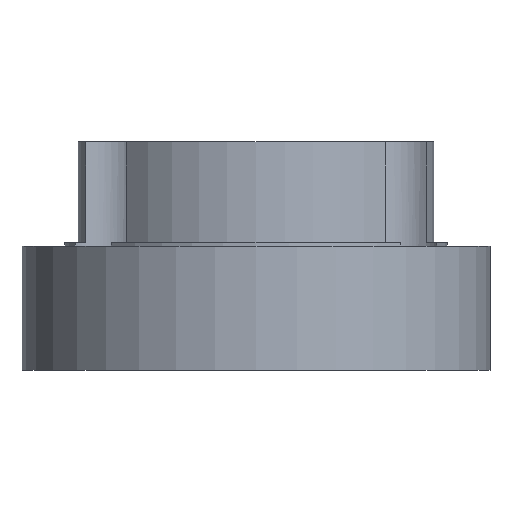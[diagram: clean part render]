
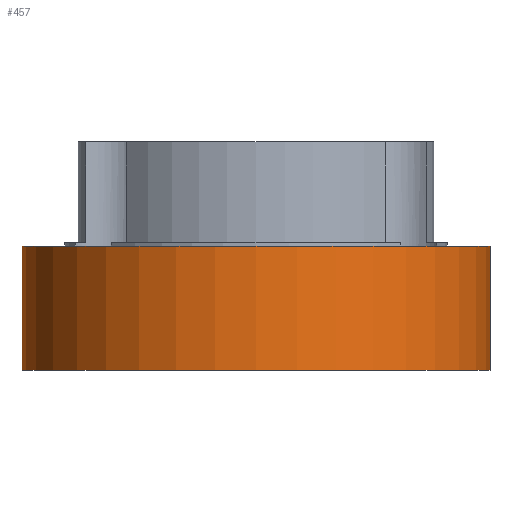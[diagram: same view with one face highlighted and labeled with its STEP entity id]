
A CAD part, front view. The second image highlights one B-rep face of the part: STEP entity #457.
In plain terms, the highlighted cylindrical face has radius 16.5 mm (diameter 33 mm), a partial arc.
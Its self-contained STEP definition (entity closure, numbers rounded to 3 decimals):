
#46 = CARTESIAN_POINT ( 'NONE',  ( 19.07, 15.638, 8.75 ) ) ;
#51 = VERTEX_POINT ( 'NONE', #1133 ) ;
#67 = FACE_OUTER_BOUND ( 'NONE', #582, .T. ) ;
#79 = EDGE_CURVE ( 'NONE', #104, #530, #892, .T. ) ;
#104 = VERTEX_POINT ( 'NONE', #46 ) ;
#130 = DIRECTION ( 'NONE',  ( 0., 0., -1. ) ) ;
#153 = CARTESIAN_POINT ( 'NONE',  ( 2.57, 15.638, 8.75 ) ) ;
#185 = CIRCLE ( 'NONE', #436, 16.5 ) ;
#191 = CARTESIAN_POINT ( 'NONE',  ( -13.93, 15.638, 8.75 ) ) ;
#228 = AXIS2_PLACEMENT_3D ( 'NONE', #1118, #906, #485 ) ;
#436 = AXIS2_PLACEMENT_3D ( 'NONE', #153, #1100, #1031 ) ;
#457 = ADVANCED_FACE ( 'NONE', ( #67 ), #1125, .T. ) ;
#471 = ORIENTED_EDGE ( 'NONE', *, *, #772, .T. ) ;
#485 = DIRECTION ( 'NONE',  ( -1., 0., 0. ) ) ;
#517 = CARTESIAN_POINT ( 'NONE',  ( 19.07, 15.638, 0. ) ) ;
#530 = VERTEX_POINT ( 'NONE', #517 ) ;
#560 = CARTESIAN_POINT ( 'NONE',  ( -13.93, 15.638, 6.75 ) ) ;
#576 = DIRECTION ( 'NONE',  ( 1., 0., 0. ) ) ;
#582 = EDGE_LOOP ( 'NONE', ( #934, #1047, #642, #471 ) ) ;
#642 = ORIENTED_EDGE ( 'NONE', *, *, #1203, .T. ) ;
#772 = EDGE_CURVE ( 'NONE', #51, #530, #1237, .T. ) ;
#789 = DIRECTION ( 'NONE',  ( 0., 0., 1. ) ) ;
#801 = CARTESIAN_POINT ( 'NONE',  ( 2.57, 15.638, 0. ) ) ;
#868 = EDGE_CURVE ( 'NONE', #932, #104, #185, .T. ) ;
#892 = LINE ( 'NONE', #1192, #968 ) ;
#906 = DIRECTION ( 'NONE',  ( 0., 0., -1. ) ) ;
#932 = VERTEX_POINT ( 'NONE', #191 ) ;
#934 = ORIENTED_EDGE ( 'NONE', *, *, #79, .F. ) ;
#968 = VECTOR ( 'NONE', #1095, 1000. ) ;
#1031 = DIRECTION ( 'NONE',  ( 1., 0., 0. ) ) ;
#1047 = ORIENTED_EDGE ( 'NONE', *, *, #868, .F. ) ;
#1084 = LINE ( 'NONE', #560, #1199 ) ;
#1095 = DIRECTION ( 'NONE',  ( 0., 0., -1. ) ) ;
#1100 = DIRECTION ( 'NONE',  ( 0., 0., 1. ) ) ;
#1118 = CARTESIAN_POINT ( 'NONE',  ( 2.57, 15.638, 6.75 ) ) ;
#1125 = CYLINDRICAL_SURFACE ( 'NONE', #228, 16.5 ) ;
#1133 = CARTESIAN_POINT ( 'NONE',  ( -13.93, 15.638, 0. ) ) ;
#1192 = CARTESIAN_POINT ( 'NONE',  ( 19.07, 15.638, 6.75 ) ) ;
#1199 = VECTOR ( 'NONE', #130, 1000. ) ;
#1203 = EDGE_CURVE ( 'NONE', #932, #51, #1084, .T. ) ;
#1237 = CIRCLE ( 'NONE', #1368, 16.5 ) ;
#1368 = AXIS2_PLACEMENT_3D ( 'NONE', #801, #789, #576 ) ;
